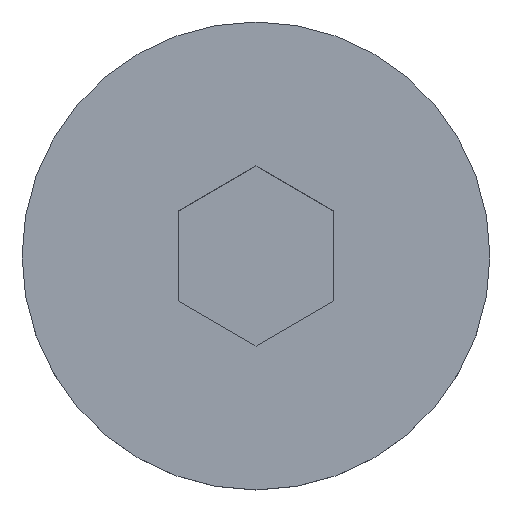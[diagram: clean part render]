
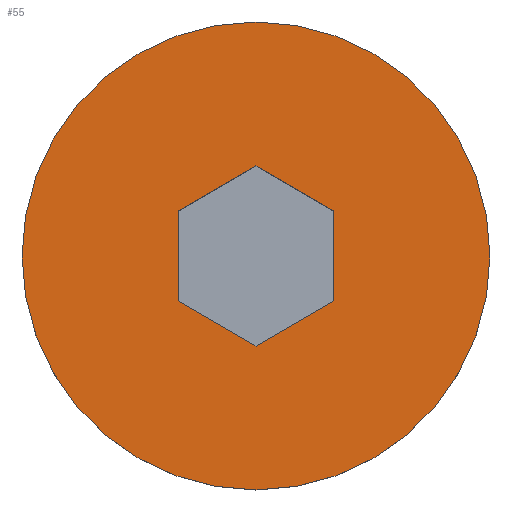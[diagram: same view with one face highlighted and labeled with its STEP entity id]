
A CAD part, top view. The second image highlights one B-rep face of the part: STEP entity #55.
In plain terms, the highlighted planar face has unit normal (0, 0, 1).
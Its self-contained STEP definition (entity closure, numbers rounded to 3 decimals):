
#2 = EDGE_CURVE ( 'NONE', #106, #62, #158, .T. ) ;
#12 = EDGE_CURVE ( 'NONE', #150, #101, #267, .T. ) ;
#14 = VERTEX_POINT ( 'NONE', #405 ) ;
#26 = CARTESIAN_POINT ( 'NONE',  ( 2.5, -1.443, 1.5 ) ) ;
#29 = DIRECTION ( 'NONE',  ( 0.866, 0.5, 0. ) ) ;
#30 = LINE ( 'NONE', #162, #227 ) ;
#33 = DIRECTION ( 'NONE',  ( 1., 0., 0. ) ) ;
#45 = ORIENTED_EDGE ( 'NONE', *, *, #12, .F. ) ;
#53 = EDGE_LOOP ( 'NONE', ( #413, #340 ) ) ;
#54 = DIRECTION ( 'NONE',  ( 0., 1., 0. ) ) ;
#55 = ADVANCED_FACE ( 'NONE', ( #180, #419 ), #411, .T. ) ;
#61 = VECTOR ( 'NONE', #416, 1000. ) ;
#62 = VERTEX_POINT ( 'NONE', #214 ) ;
#66 = VERTEX_POINT ( 'NONE', #238 ) ;
#69 = DIRECTION ( 'NONE',  ( 0., 0., 1. ) ) ;
#70 = AXIS2_PLACEMENT_3D ( 'NONE', #305, #103, #138 ) ;
#92 = ORIENTED_EDGE ( 'NONE', *, *, #155, .F. ) ;
#101 = VERTEX_POINT ( 'NONE', #144 ) ;
#103 = DIRECTION ( 'NONE',  ( 0., 0., 1. ) ) ;
#106 = VERTEX_POINT ( 'NONE', #139 ) ;
#107 = CARTESIAN_POINT ( 'NONE',  ( 0., 2.887, 1.5 ) ) ;
#115 = VECTOR ( 'NONE', #282, 1000. ) ;
#116 = VECTOR ( 'NONE', #341, 1000. ) ;
#138 = DIRECTION ( 'NONE',  ( 1., 0., 0. ) ) ;
#139 = CARTESIAN_POINT ( 'NONE',  ( -7.5, 0., 1.5 ) ) ;
#144 = CARTESIAN_POINT ( 'NONE',  ( 0., -2.887, 1.5 ) ) ;
#146 = EDGE_CURVE ( 'NONE', #204, #235, #369, .T. ) ;
#150 = VERTEX_POINT ( 'NONE', #414 ) ;
#155 = EDGE_CURVE ( 'NONE', #235, #66, #261, .T. ) ;
#158 = CIRCLE ( 'NONE', #70, 7.5 ) ;
#162 = CARTESIAN_POINT ( 'NONE',  ( 0., -2.887, 1.5 ) ) ;
#167 = DIRECTION ( 'NONE',  ( 1., 0., 0. ) ) ;
#173 = CIRCLE ( 'NONE', #186, 7.5 ) ;
#180 = FACE_BOUND ( 'NONE', #275, .T. ) ;
#181 = DIRECTION ( 'NONE',  ( 0., -1., 0. ) ) ;
#182 = CARTESIAN_POINT ( 'NONE',  ( 0., 2.887, 1.5 ) ) ;
#185 = ORIENTED_EDGE ( 'NONE', *, *, #335, .F. ) ;
#186 = AXIS2_PLACEMENT_3D ( 'NONE', #264, #328, #33 ) ;
#204 = VERTEX_POINT ( 'NONE', #425 ) ;
#207 = CARTESIAN_POINT ( 'NONE',  ( -2.5, -1.443, 1.5 ) ) ;
#214 = CARTESIAN_POINT ( 'NONE',  ( 7.5, 0., 1.5 ) ) ;
#217 = LINE ( 'NONE', #26, #229 ) ;
#227 = VECTOR ( 'NONE', #29, 1000. ) ;
#229 = VECTOR ( 'NONE', #54, 1000. ) ;
#235 = VERTEX_POINT ( 'NONE', #182 ) ;
#238 = CARTESIAN_POINT ( 'NONE',  ( -2.5, 1.443, 1.5 ) ) ;
#261 = LINE ( 'NONE', #107, #115 ) ;
#262 = ORIENTED_EDGE ( 'NONE', *, *, #304, .F. ) ;
#264 = CARTESIAN_POINT ( 'NONE',  ( 0., 0., 1.5 ) ) ;
#267 = LINE ( 'NONE', #207, #116 ) ;
#275 = EDGE_LOOP ( 'NONE', ( #359, #262, #346, #45, #185, #92 ) ) ;
#276 = CARTESIAN_POINT ( 'NONE',  ( 2.5, 1.443, 1.5 ) ) ;
#282 = DIRECTION ( 'NONE',  ( -0.866, -0.5, 0. ) ) ;
#299 = VECTOR ( 'NONE', #181, 1000. ) ;
#304 = EDGE_CURVE ( 'NONE', #14, #204, #217, .T. ) ;
#305 = CARTESIAN_POINT ( 'NONE',  ( 0., 0., 1.5 ) ) ;
#328 = DIRECTION ( 'NONE',  ( 0., 0., 1. ) ) ;
#335 = EDGE_CURVE ( 'NONE', #66, #150, #389, .T. ) ;
#340 = ORIENTED_EDGE ( 'NONE', *, *, #355, .T. ) ;
#341 = DIRECTION ( 'NONE',  ( 0.866, -0.5, 0. ) ) ;
#346 = ORIENTED_EDGE ( 'NONE', *, *, #376, .F. ) ;
#355 = EDGE_CURVE ( 'NONE', #62, #106, #173, .T. ) ;
#359 = ORIENTED_EDGE ( 'NONE', *, *, #146, .F. ) ;
#368 = AXIS2_PLACEMENT_3D ( 'NONE', #371, #69, #167 ) ;
#369 = LINE ( 'NONE', #276, #61 ) ;
#371 = CARTESIAN_POINT ( 'NONE',  ( 0., 0., 1.5 ) ) ;
#376 = EDGE_CURVE ( 'NONE', #101, #14, #30, .T. ) ;
#389 = LINE ( 'NONE', #394, #299 ) ;
#394 = CARTESIAN_POINT ( 'NONE',  ( -2.5, 1.443, 1.5 ) ) ;
#405 = CARTESIAN_POINT ( 'NONE',  ( 2.5, -1.443, 1.5 ) ) ;
#411 = PLANE ( 'NONE',  #368 ) ;
#413 = ORIENTED_EDGE ( 'NONE', *, *, #2, .T. ) ;
#414 = CARTESIAN_POINT ( 'NONE',  ( -2.5, -1.443, 1.5 ) ) ;
#416 = DIRECTION ( 'NONE',  ( -0.866, 0.5, 0. ) ) ;
#419 = FACE_OUTER_BOUND ( 'NONE', #53, .T. ) ;
#425 = CARTESIAN_POINT ( 'NONE',  ( 2.5, 1.443, 1.5 ) ) ;
